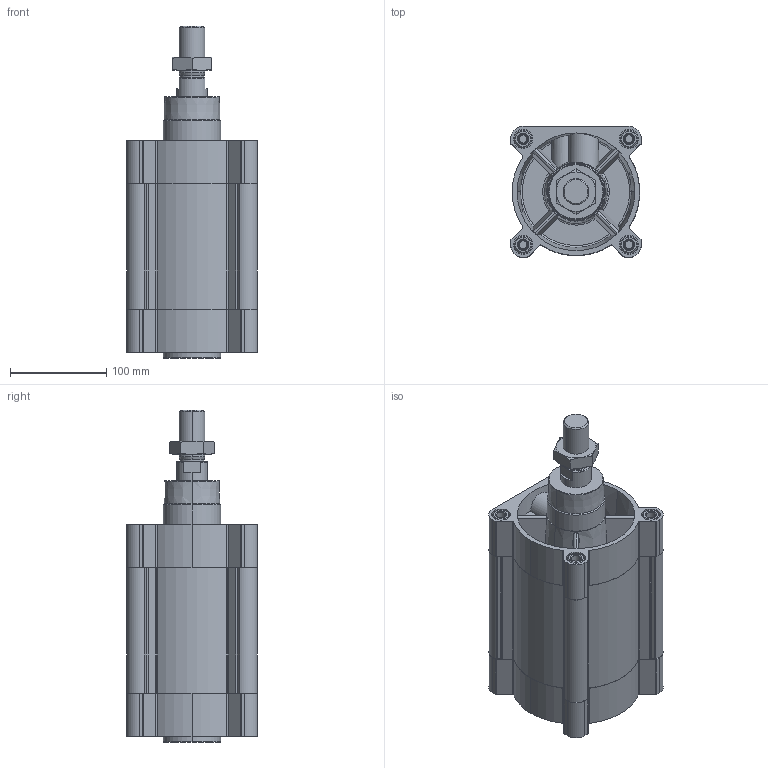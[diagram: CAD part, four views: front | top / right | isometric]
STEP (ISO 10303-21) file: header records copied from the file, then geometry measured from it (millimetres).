
FILE_DESCRIPTION (( 'STEP AP203' ), '1' );
FILE_NAME ('CPME125-60.STEP', '2023-02-22T19:37:23', ( '' ), ( '' ), 'SwSTEP 2.0', 'SolidWorks 2019', '' );
FILE_SCHEMA (( 'CONFIG_CONTROL_DESIGN' ));
Length unit declared in the file: millimetre
Products named in the file (1): CPME125-60
Bounding box: 136 x 136 x 345 mm (x, y, z)
Volume: 2600474.2 mm3; surface area: 409554.2 mm2
Topology: 3 solids, 3 shells, 539 faces, 1371 edges, 878 vertices
Faces by surface type: plane 207, cylinder 206, cone 98, torus 28
Entity records: 19480 total; most frequent: CARTESIAN_POINT 6326, DIRECTION 2767, ORIENTED_EDGE 2742, EDGE_CURVE 1371, AXIS2_PLACEMENT_3D 1051, VERTEX_POINT 878, LINE 665, VECTOR 665
